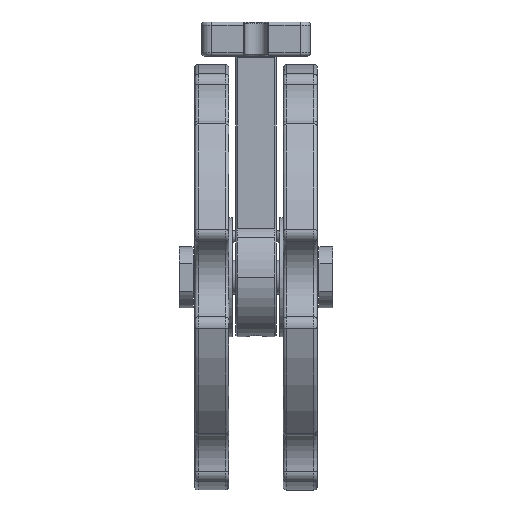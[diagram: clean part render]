
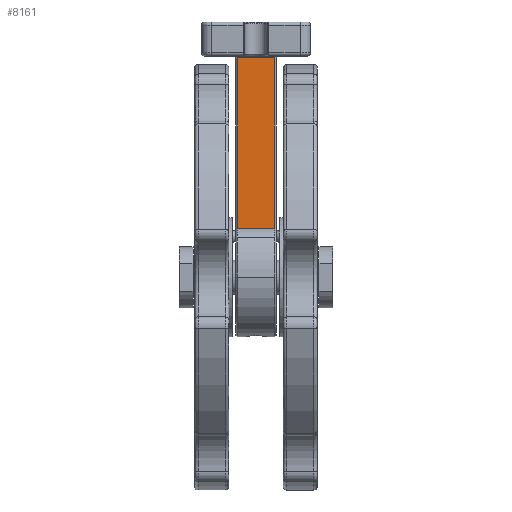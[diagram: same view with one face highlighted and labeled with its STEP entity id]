
A CAD part, left-side view. The second image highlights one B-rep face of the part: STEP entity #8161.
In plain terms, the highlighted planar face has unit normal (-1, 0, 0).
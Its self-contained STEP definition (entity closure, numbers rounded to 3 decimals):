
#499 = ORIENTED_EDGE ( 'NONE', *, *, #10547, .T. ) ;
#1194 = ORIENTED_EDGE ( 'NONE', *, *, #17990, .T. ) ;
#2369 = EDGE_LOOP ( 'NONE', ( #6175, #9501, #499, #1194 ) ) ;
#2852 = PLANE ( 'NONE',  #5206 ) ;
#3704 = LINE ( 'NONE', #8300, #14704 ) ;
#3740 = EDGE_CURVE ( 'NONE', #17598, #7305, #3704, .T. ) ;
#4443 = CARTESIAN_POINT ( 'NONE',  ( -12., 65., 11.5 ) ) ;
#5206 = AXIS2_PLACEMENT_3D ( 'NONE', #5698, #8650, #16807 ) ;
#5698 = CARTESIAN_POINT ( 'NONE',  ( -12., 65., 12. ) ) ;
#6175 = ORIENTED_EDGE ( 'NONE', *, *, #12857, .T. ) ;
#6944 = LINE ( 'NONE', #4443, #10759 ) ;
#7305 = VERTEX_POINT ( 'NONE', #7378 ) ;
#7378 = CARTESIAN_POINT ( 'NONE',  ( -12., 14.361, 0.5 ) ) ;
#7536 = DIRECTION ( 'NONE',  ( 0., 0., 1. ) ) ;
#8161 = ADVANCED_FACE ( 'NONE', ( #10203 ), #2852, .F. ) ;
#8300 = CARTESIAN_POINT ( 'NONE',  ( -12., 65., 0.5 ) ) ;
#8542 = CARTESIAN_POINT ( 'NONE',  ( -12., 14.361, 11.5 ) ) ;
#8650 = DIRECTION ( 'NONE',  ( 1., 0., 0. ) ) ;
#9262 = CARTESIAN_POINT ( 'NONE',  ( -12., 14.361, 12. ) ) ;
#9501 = ORIENTED_EDGE ( 'NONE', *, *, #3740, .T. ) ;
#10203 = FACE_OUTER_BOUND ( 'NONE', #2369, .T. ) ;
#10513 = CARTESIAN_POINT ( 'NONE',  ( -12., 64.5, 0.5 ) ) ;
#10547 = EDGE_CURVE ( 'NONE', #7305, #15405, #10633, .T. ) ;
#10633 = LINE ( 'NONE', #9262, #13512 ) ;
#10759 = VECTOR ( 'NONE', #15472, 1000. ) ;
#11263 = LINE ( 'NONE', #12841, #14947 ) ;
#12841 = CARTESIAN_POINT ( 'NONE',  ( -12., 64.5, 12. ) ) ;
#12857 = EDGE_CURVE ( 'NONE', #15323, #17598, #11263, .T. ) ;
#13512 = VECTOR ( 'NONE', #7536, 1000. ) ;
#13906 = DIRECTION ( 'NONE',  ( 0., -1., 0. ) ) ;
#14704 = VECTOR ( 'NONE', #13906, 1000. ) ;
#14947 = VECTOR ( 'NONE', #16864, 1000. ) ;
#15323 = VERTEX_POINT ( 'NONE', #16459 ) ;
#15405 = VERTEX_POINT ( 'NONE', #8542 ) ;
#15472 = DIRECTION ( 'NONE',  ( 0., 1., 0. ) ) ;
#16459 = CARTESIAN_POINT ( 'NONE',  ( -12., 64.5, 11.5 ) ) ;
#16807 = DIRECTION ( 'NONE',  ( 0., 0., -1. ) ) ;
#16864 = DIRECTION ( 'NONE',  ( 0., 0., -1. ) ) ;
#17598 = VERTEX_POINT ( 'NONE', #10513 ) ;
#17990 = EDGE_CURVE ( 'NONE', #15405, #15323, #6944, .T. ) ;
